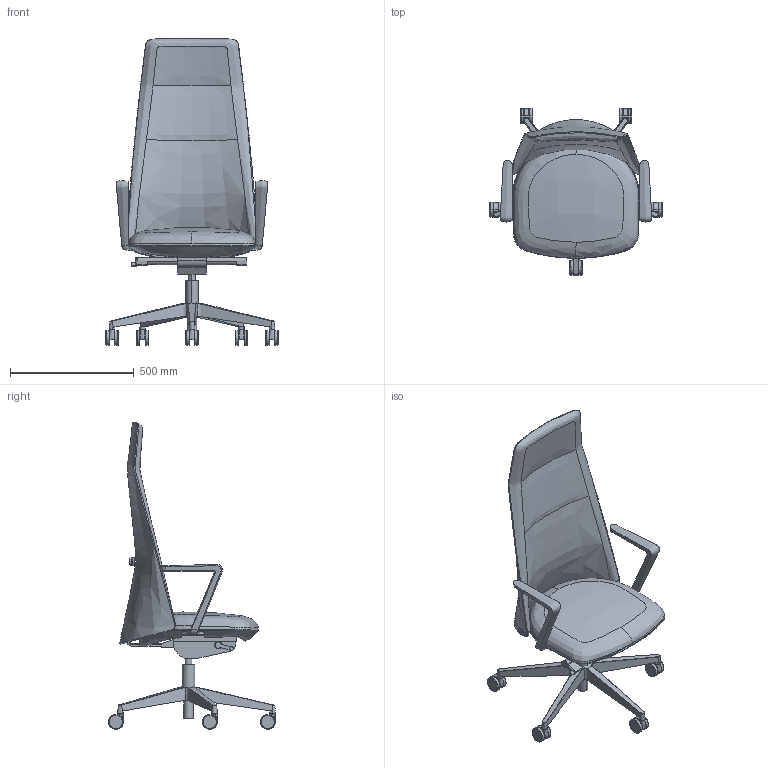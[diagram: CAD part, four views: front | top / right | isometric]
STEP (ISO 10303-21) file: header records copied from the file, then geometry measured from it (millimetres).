
FILE_DESCRIPTION(/* description */ (''),/* implementation_level */ '2;1');
FILE_NAME(/* name */ 'ME002D~1',/* time_stamp */ '2016-11-30T15:52:15+01:00',/* author */ (''),/* organization */ (''),/* preprocessor_version */ 'ST-DEVELOPER v15',/* originating_system */ '',/* authorisation */ '');
FILE_SCHEMA (('CONFIG_CONTROL_DESIGN'));
Length unit declared in the file: millimetre
Products named in the file (1): Document
Bounding box: 694.82 x 673.73 x 1238.33 mm (x, y, z)
Volume: 36603318.3 mm3; surface area: 2448839.8 mm2
Topology: 15 solids, 38 shells, 346 faces, 838 edges, 517 vertices
Faces by surface type: bspline 230, plane 116
Entity records: 23477 total; most frequent: CARTESIAN_POINT 18539, ORIENTED_EDGE 1529, EDGE_CURVE 820, VERTEX_POINT 511, B_SPLINE_CURVE_WITH_KNOTS 427, EDGE_LOOP 347, ADVANCED_FACE 346, FACE_OUTER_BOUND 346
